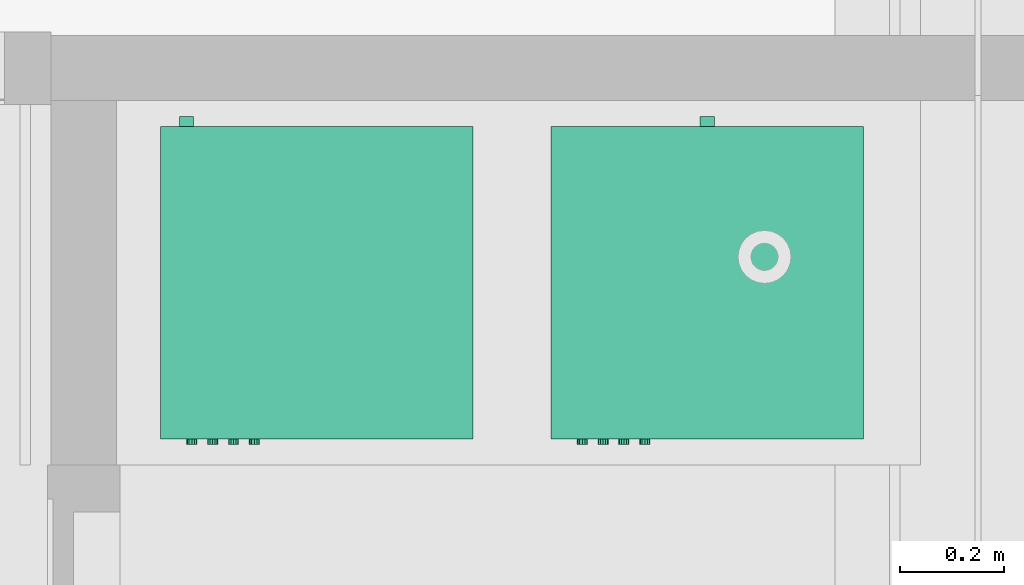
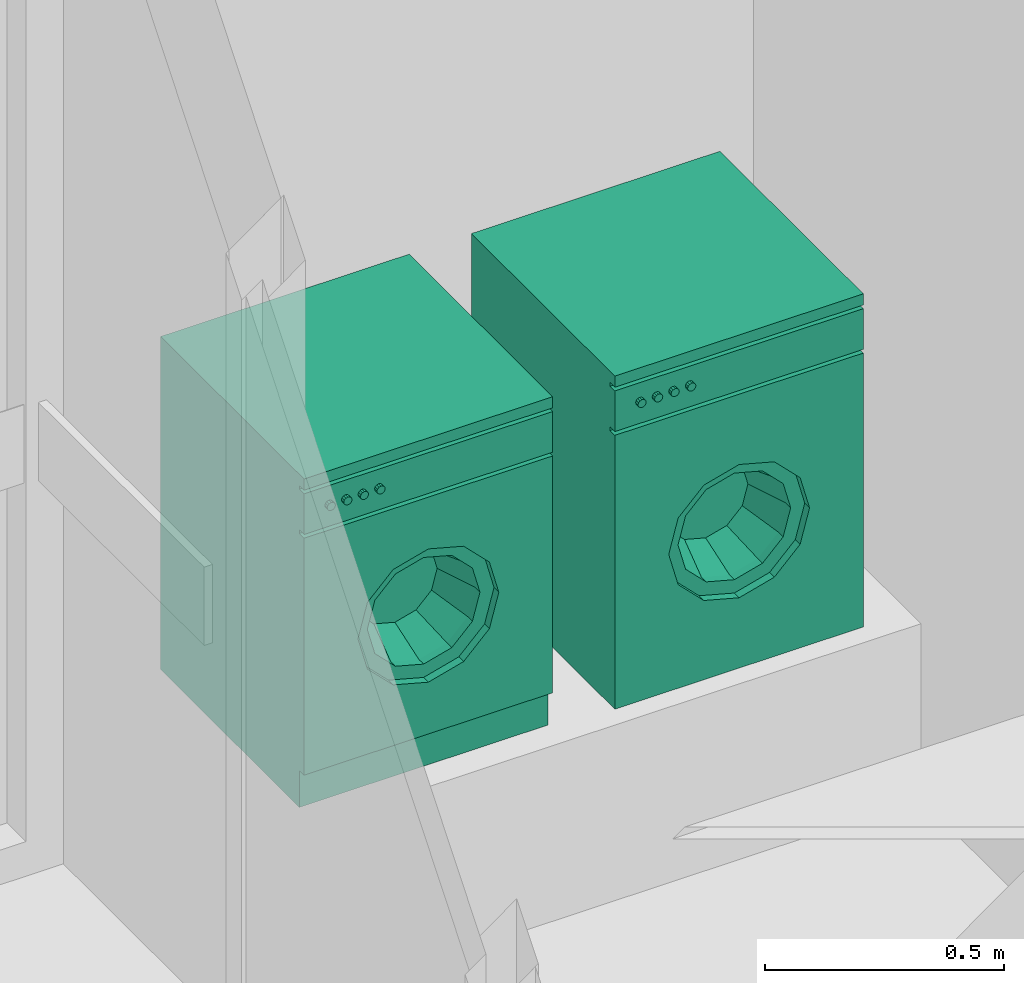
# One storey, part 303 of 347: 2 flow terminals.
"""IFC2X3 building model written with IfcOpenShell, lengths in millimetres."""

from ifc_helpers import new_model, entity, si_unit, converted_unit, derived_unit, money_unit, direction, frame, origin_with_axes, place, context, subcontext, project, spatial, open_shell, faceted_brep, surface_model, type_object, element, save


model = new_model("IFC2X3")

# Units and contexts
model_context = context("Model", 3, precision=0.01, world=origin_with_axes(), true_north=direction((0.0, 1.0)))
plan_context = context("Plan", 3, precision=0.01, world=origin_with_axes(), true_north=direction((0.0, 1.0)))
body_context = subcontext(model_context, "Body", "Model", "MODEL_VIEW")
ifc_project = project(units=[si_unit("LENGTHUNIT", "METRE", prefix="MILLI"), si_unit("AREAUNIT", "SQUARE_METRE"), si_unit("VOLUMEUNIT", "CUBIC_METRE"), converted_unit("PLANEANGLEUNIT", "DEGREE", entity("IfcPlaneAngleMeasure", 0.0174532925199), si_unit("PLANEANGLEUNIT", "RADIAN"), dimensions=[0, 0, 0, 0, 0, 0, 0]), money_unit("EUR"), converted_unit("TIMEUNIT", "Year", entity("IfcTimeMeasure", 31556926.0), si_unit("TIMEUNIT", "SECOND"), dimensions=[0, 0, 1, 0, 0, 0, 0]), si_unit("MASSUNIT", "GRAM", prefix="KILO"), si_unit("THERMODYNAMICTEMPERATUREUNIT", "DEGREE_CELSIUS"), si_unit("LUMINOUSINTENSITYUNIT", "LUMEN"), si_unit("ENERGYUNIT", "JOULE", prefix="MEGA"), derived_unit("THERMALCONDUCTANCEUNIT", [(si_unit("POWERUNIT", "WATT"), 1), (si_unit("LENGTHUNIT", "METRE"), -1), (si_unit("THERMODYNAMICTEMPERATUREUNIT", "KELVIN"), -1)]), derived_unit("SPECIFICHEATCAPACITYUNIT", [(si_unit("ENERGYUNIT", "JOULE"), 1), (si_unit("MASSUNIT", "GRAM", prefix="KILO"), -1), (si_unit("THERMODYNAMICTEMPERATUREUNIT", "KELVIN"), -1)]), derived_unit("MASSDENSITYUNIT", [(si_unit("MASSUNIT", "GRAM", prefix="KILO"), 1), (si_unit("VOLUMEUNIT", "CUBIC_METRE"), -1)])], contexts=[model_context, plan_context])

# Site, building, storey
site_placement = place(None, origin_with_axes())
site = spatial("IfcSite", under=ifc_project, at=site_placement, Name="Site", CompositionType="ELEMENT")
building_placement = place(site_placement, origin_with_axes())
building = spatial("IfcBuilding", under=site, at=building_placement, Name="Naam gebouw", CompositionType="ELEMENT")
storey_placement = place(building_placement, origin_with_axes())
storey = spatial("IfcBuildingStorey", under=building, at=storey_placement, Name="begane grond", CompositionType="ELEMENT", Elevation=0.0)

# Flow terminals
sanitary_terminal_type_1 = type_object("IfcSanitaryTerminalType", Name="Wasmachine 25", PredefinedType="SINK")
flow_terminal_1_placement = place(storey_placement, frame((34335.0, 16650.0, 450.0), z_axis=(0.0, 0.0, 1.0), x_axis=(1.0, 0.0, 0.0)))
element("IfcFlowTerminal", 1, at=flow_terminal_1_placement, inside=storey, type_object=sanitary_terminal_type_1, Name="53_kopieerapparaat", context=body_context, shape_type="SurfaceModel", body=[
    surface_model("IfcShellBasedSurfaceModel", [(-250.0, 0.0, 794.666666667), (-253.494057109, 0.0, 795.126668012), (-253.494057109, 20.0, 795.126668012), (-250.0, 20.0, 794.666666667), (-256.75, 0.0, 796.475323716), (-256.75, 20.0, 796.475323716), (-246.505942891, 0.0, 795.126668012), (-246.505942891, 20.0, 795.126668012), (-259.545941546, 0.0, 798.620725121), (-259.545941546, 20.0, 798.620725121), (-243.25, 0.0, 796.475323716), (-243.25, 20.0, 796.475323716), (-261.691342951, 0.0, 801.416666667), (-261.691342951, 20.0, 801.416666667), (-240.454058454, 0.0, 798.620725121), (-240.454058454, 20.0, 798.620725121), (-263.039998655, 0.0, 804.672609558), (-263.039998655, 20.0, 804.672609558), (-238.308657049, 0.0, 801.416666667), (-238.308657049, 20.0, 801.416666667), (-263.5, 0.0, 808.166666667), (-263.5, 20.0, 808.166666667), (-236.960001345, 0.0, 804.672609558), (-236.960001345, 20.0, 804.672609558), (-263.039998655, 0.0, 811.660723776), (-263.039998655, 20.0, 811.660723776), (-236.5, 0.0, 808.166666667), (-236.5, 20.0, 808.166666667), (-261.691342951, 0.0, 814.916666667), (-261.691342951, 20.0, 814.916666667), (-236.960001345, 0.0, 811.660723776), (-236.960001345, 20.0, 811.660723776), (-259.545941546, 0.0, 817.712608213), (-259.545941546, 20.0, 817.712608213), (-238.308657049, 0.0, 814.916666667), (-238.308657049, 20.0, 814.916666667), (-256.75, 0.0, 819.858009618), (-256.75, 20.0, 819.858009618), (-240.454058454, 0.0, 817.712608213), (-240.454058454, 20.0, 817.712608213), (-253.494057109, 0.0, 821.206665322), (-253.494057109, 20.0, 821.206665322), (-243.25, 0.0, 819.858009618), (-243.25, 20.0, 819.858009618), (-250.0, 0.0, 821.666666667), (-250.0, 20.0, 821.666666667), (-246.505942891, 0.0, 821.206665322), (-246.505942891, 20.0, 821.206665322)], [open_shell([[[0, 1, 2, 3]], [[1, 4, 5, 2]], [[6, 0, 3, 7]], [[4, 8, 9, 5]], [[10, 6, 7, 11]], [[8, 12, 13, 9]], [[14, 10, 11, 15]], [[12, 16, 17, 13]], [[18, 14, 15, 19]], [[16, 20, 21, 17]], [[22, 18, 19, 23]], [[20, 24, 25, 21]], [[26, 22, 23, 27]], [[24, 28, 29, 25]], [[30, 26, 27, 31]], [[28, 32, 33, 29]], [[34, 30, 31, 35]], [[32, 36, 37, 33]], [[38, 34, 35, 39]], [[36, 40, 41, 37]], [[42, 38, 39, 43]], [[40, 44, 45, 41]], [[46, 42, 43, 47]], [[44, 46, 47, 45]]])]),
    surface_model("IfcShellBasedSurfaceModel", [(-250.0, 0.0, 426.5), (-253.494057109, 0.0, 426.960001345), (-253.494057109, 20.0, 426.960001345), (-250.0, 20.0, 426.5), (-256.75, 0.0, 428.308657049), (-256.75, 20.0, 428.308657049), (-246.505942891, 0.0, 426.960001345), (-246.505942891, 20.0, 426.960001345), (-259.545941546, 0.0, 430.454058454), (-259.545941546, 20.0, 430.454058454), (-243.25, 0.0, 428.308657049), (-243.25, 20.0, 428.308657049), (-261.691342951, 0.0, 433.25), (-261.691342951, 20.0, 433.25), (-240.454058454, 0.0, 430.454058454), (-240.454058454, 20.0, 430.454058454), (-263.039998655, 0.0, 436.505942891), (-263.039998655, 20.0, 436.505942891), (-238.308657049, 0.0, 433.25), (-238.308657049, 20.0, 433.25), (-263.5, 0.0, 440.0), (-263.5, 20.0, 440.0), (-236.960001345, 0.0, 436.505942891), (-236.960001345, 20.0, 436.505942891), (-263.039998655, 0.0, 443.494057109), (-263.039998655, 20.0, 443.494057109), (-236.5, 0.0, 440.0), (-236.5, 20.0, 440.0), (-261.691342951, 0.0, 446.75), (-261.691342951, 20.0, 446.75), (-236.960001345, 0.0, 443.494057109), (-236.960001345, 20.0, 443.494057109), (-259.545941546, 0.0, 449.545941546), (-259.545941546, 20.0, 449.545941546), (-238.308657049, 0.0, 446.75), (-238.308657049, 20.0, 446.75), (-256.75, 0.0, 451.691342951), (-256.75, 20.0, 451.691342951), (-240.454058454, 0.0, 449.545941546), (-240.454058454, 20.0, 449.545941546), (-253.494057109, 0.0, 453.039998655), (-253.494057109, 20.0, 453.039998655), (-243.25, 0.0, 451.691342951), (-243.25, 20.0, 451.691342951), (-250.0, 0.0, 453.5), (-250.0, 20.0, 453.5), (-246.505942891, 0.0, 453.039998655), (-246.505942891, 20.0, 453.039998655)], [open_shell([[[0, 1, 2, 3]], [[1, 4, 5, 2]], [[6, 0, 3, 7]], [[4, 8, 9, 5]], [[10, 6, 7, 11]], [[8, 12, 13, 9]], [[14, 10, 11, 15]], [[12, 16, 17, 13]], [[18, 14, 15, 19]], [[16, 20, 21, 17]], [[22, 18, 19, 23]], [[20, 24, 25, 21]], [[26, 22, 23, 27]], [[24, 28, 29, 25]], [[30, 26, 27, 31]], [[28, 32, 33, 29]], [[34, 30, 31, 35]], [[32, 36, 37, 33]], [[38, 34, 35, 39]], [[36, 40, 41, 37]], [[42, 38, 39, 43]], [[40, 44, 45, 41]], [[46, 42, 43, 47]], [[44, 46, 47, 45]]])]),
    faceted_brep([(-300.0, -580.0, 94.4444444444), (300.0, -580.0, 94.4444444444), (300.0, -600.0, 94.4444444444), (-300.0, -600.0, 94.4444444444), (-300.0, -580.0, 698.888888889), (300.0, -580.0, 698.888888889), (170.0, -580.0, 396.666666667), (147.224318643, -580.0, 481.666666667), (85.0, -580.0, 543.89098531), (0.0, -580.0, 566.666666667), (-85.0, -580.0, 543.89098531), (-147.224318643, -580.0, 481.666666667), (-170.0, -580.0, 396.666666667), (-147.224318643, -580.0, 311.666666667), (-85.0, -580.0, 249.442348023), (0.0, -580.0, 226.666666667), (85.0, -580.0, 249.442348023), (147.224318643, -580.0, 311.666666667), (300.0, -600.0, 698.888888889), (-300.0, -600.0, 698.888888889), (170.0, -600.0, 396.666666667), (147.224318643, -600.0, 311.666666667), (85.0, -600.0, 249.442348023), (0.0, -600.0, 226.666666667), (-85.0, -600.0, 249.442348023), (-147.224318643, -600.0, 311.666666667), (-170.0, -600.0, 396.666666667), (-147.224318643, -600.0, 481.666666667), (-85.0, -600.0, 543.89098531), (0.0, -600.0, 566.666666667), (85.0, -600.0, 543.89098531), (147.224318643, -600.0, 481.666666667)], [[[0, 1, 2, 3]], [[0, 4, 5, 1], [6, 7, 8, 9, 10, 11, 12, 13, 14, 15, 16, 17]], [[1, 5, 18, 2]], [[3, 2, 18, 19], [20, 21, 22, 23, 24, 25, 26, 27, 28, 29, 30, 31]], [[4, 0, 3, 19]], [[5, 4, 19, 18]], [[7, 6, 20, 31]], [[8, 7, 31, 30]], [[9, 8, 30, 29]], [[10, 9, 29, 28]], [[11, 10, 28, 27]], [[12, 11, 27, 26]], [[13, 12, 26, 25]], [[14, 13, 25, 24]], [[15, 14, 24, 23]], [[16, 15, 23, 22]], [[17, 16, 22, 21]], [[6, 17, 21, 20]]]),
    faceted_brep([(170.0, -560.0, 396.666666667), (147.224318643, -560.0, 481.666666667), (147.224318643, -580.0, 481.666666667), (170.0, -580.0, 396.666666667), (147.224318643, -560.0, 311.666666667), (85.0, -560.0, 249.442348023), (0.0, -560.0, 226.666666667), (-85.0, -560.0, 249.442348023), (-147.224318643, -560.0, 311.666666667), (-170.0, -560.0, 396.666666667), (-147.224318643, -560.0, 481.666666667), (-85.0, -560.0, 543.89098531), (0.0, -560.0, 566.666666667), (85.0, -560.0, 543.89098531), (136.0, -560.0, 396.666666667), (117.779454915, -560.0, 464.666666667), (68.0, -560.0, 514.446121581), (0.0, -560.0, 532.666666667), (-68.0, -560.0, 514.446121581), (-117.779454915, -560.0, 464.666666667), (-136.0, -560.0, 396.666666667), (-117.779454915, -560.0, 328.666666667), (-68.0, -560.0, 278.887211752), (0.0, -560.0, 260.666666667), (68.0, -560.0, 278.887211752), (117.779454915, -560.0, 328.666666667), (85.0, -580.0, 543.89098531), (0.0, -580.0, 566.666666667), (-85.0, -580.0, 543.89098531), (-147.224318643, -580.0, 481.666666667), (-170.0, -580.0, 396.666666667), (-147.224318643, -580.0, 311.666666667), (-85.0, -580.0, 249.442348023), (0.0, -580.0, 226.666666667), (85.0, -580.0, 249.442348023), (147.224318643, -580.0, 311.666666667), (136.0, -580.0, 396.666666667), (117.779454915, -580.0, 328.666666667), (68.0, -580.0, 278.887211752), (0.0, -580.0, 260.666666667), (-68.0, -580.0, 278.887211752), (-117.779454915, -580.0, 328.666666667), (-136.0, -580.0, 396.666666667), (-117.779454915, -580.0, 464.666666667), (-68.0, -580.0, 514.446121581), (0.0, -580.0, 532.666666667), (68.0, -580.0, 514.446121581), (117.779454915, -580.0, 464.666666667)], [[[0, 1, 2, 3]], [[0, 4, 5, 6, 7, 8, 9, 10, 11, 12, 13, 1], [14, 15, 16, 17, 18, 19, 20, 21, 22, 23, 24, 25]], [[1, 13, 26, 2]], [[3, 2, 26, 27, 28, 29, 30, 31, 32, 33, 34, 35], [36, 37, 38, 39, 40, 41, 42, 43, 44, 45, 46, 47]], [[4, 0, 3, 35]], [[5, 4, 35, 34]], [[6, 5, 34, 33]], [[7, 6, 33, 32]], [[8, 7, 32, 31]], [[9, 8, 31, 30]], [[10, 9, 30, 29]], [[11, 10, 29, 28]], [[12, 11, 28, 27]], [[13, 12, 27, 26]], [[15, 14, 36, 47]], [[16, 15, 47, 46]], [[17, 16, 46, 45]], [[18, 17, 45, 44]], [[19, 18, 44, 43]], [[20, 19, 43, 42]], [[21, 20, 42, 41]], [[22, 21, 41, 40]], [[23, 22, 40, 39]], [[24, 23, 39, 38]], [[25, 24, 38, 37]], [[14, 25, 37, 36]]]),
    surface_model("IfcShellBasedSurfaceModel", [(-68.0, -560.0, 514.446121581), (0.0, -560.0, 532.666666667), (0.0, -460.0, 498.666666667), (-51.0, -460.0, 485.001257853), (68.0, -560.0, 514.446121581), (51.0, -460.0, 485.001257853), (88.334591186, -460.0, 447.666666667), (102.0, -460.0, 396.666666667), (88.334591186, -460.0, 345.666666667), (51.0, -460.0, 308.332075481), (0.0, -460.0, 294.666666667), (-51.0, -460.0, 308.332075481), (-88.334591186, -460.0, 345.666666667), (-102.0, -460.0, 396.666666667), (-88.334591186, -460.0, 447.666666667), (-117.779454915, -560.0, 464.666666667), (117.779454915, -560.0, 464.666666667), (136.0, -560.0, 396.666666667), (117.779454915, -560.0, 328.666666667), (68.0, -560.0, 278.887211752), (0.0, -560.0, 260.666666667), (-68.0, -560.0, 278.887211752), (-117.779454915, -560.0, 328.666666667), (-136.0, -560.0, 396.666666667)], [open_shell([[[0, 1, 2, 3]], [[1, 4, 5, 2]], [[2, 5, 6, 7, 8, 9, 10, 11, 12, 13, 14, 3]], [[15, 0, 3, 14]], [[4, 16, 6, 5]], [[16, 17, 7, 6]], [[17, 18, 8, 7]], [[18, 19, 9, 8]], [[19, 20, 10, 9]], [[20, 21, 11, 10]], [[21, 22, 12, 11]], [[22, 23, 13, 12]], [[23, 15, 14, 13]]])]),
    surface_model("IfcShellBasedSurfaceModel", [(-300.0, -580.0, 94.4444444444), (-300.0, -580.0, 821.666666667), (-300.0, 0.0, 821.666666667), (-300.0, 0.0, 94.4444444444)], [open_shell([[[0, 1, 2, 3]]])]),
    surface_model("IfcShellBasedSurfaceModel", [(300.0, -580.0, 94.4444444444), (300.0, -580.0, 821.666666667), (300.0, 0.0, 821.666666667), (300.0, 0.0, 94.4444444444)], [open_shell([[[0, 1, 2, 3]]])]),
    surface_model("IfcShellBasedSurfaceModel", [(-300.0, 0.0, 94.4444444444), (-300.0, 0.0, 821.666666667), (300.0, 0.0, 821.666666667), (300.0, 0.0, 94.4444444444)], [open_shell([[[0, 1, 2, 3]]])]),
    faceted_brep([(-300.0, -580.0, 0.0), (300.0, -580.0, 0.0), (300.0, -580.0, 94.4444444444), (-300.0, -580.0, 94.4444444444), (-300.0, 0.0, 0.0), (300.0, 0.0, 0.0), (300.0, 0.0, 94.4444444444), (-300.0, 0.0, 94.4444444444)], [[[0, 1, 2, 3]], [[0, 4, 5, 1]], [[1, 5, 6, 2]], [[3, 2, 6, 7]], [[4, 0, 3, 7]], [[5, 4, 7, 6]]]),
    faceted_brep([(-300.0, -580.0, 708.333333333), (300.0, -580.0, 708.333333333), (300.0, -600.0, 708.333333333), (-300.0, -600.0, 708.333333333), (-300.0, -580.0, 812.222222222), (300.0, -580.0, 812.222222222), (300.0, -600.0, 812.222222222), (-300.0, -600.0, 812.222222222)], [[[0, 1, 2, 3]], [[0, 4, 5, 1]], [[1, 5, 6, 2]], [[3, 2, 6, 7]], [[4, 0, 3, 7]], [[5, 4, 7, 6]]]),
    surface_model("IfcShellBasedSurfaceModel", [(-300.0, -580.0, 698.888888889), (-300.0, -580.0, 821.666666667), (300.0, -580.0, 821.666666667), (300.0, -580.0, 698.888888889)], [open_shell([[[0, 1, 2, 3]]])]),
    faceted_brep([(-300.0, -600.0, 821.666666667), (300.0, -600.0, 821.666666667), (300.0, -600.0, 850.0), (-300.0, -600.0, 850.0), (-300.0, 0.0, 821.666666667), (300.0, 0.0, 821.666666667), (300.0, 0.0, 850.0), (-300.0, 0.0, 850.0)], [[[0, 1, 2, 3]], [[0, 4, 5, 1]], [[1, 5, 6, 2]], [[3, 2, 6, 7]], [[4, 0, 3, 7]], [[5, 4, 7, 6]]]),
    faceted_brep([(-231.339745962, -600.0, 760.0), (-235.0, -600.0, 756.339745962), (-240.0, -600.0, 755.0), (-245.0, -600.0, 756.339745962), (-248.660254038, -600.0, 760.0), (-250.0, -600.0, 765.0), (-248.660254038, -600.0, 770.0), (-245.0, -600.0, 773.660254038), (-240.0, -600.0, 775.0), (-235.0, -600.0, 773.660254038), (-231.339745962, -600.0, 770.0), (-230.0, -600.0, 765.0), (-231.339745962, -610.0, 760.0), (-235.0, -610.0, 756.339745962), (-240.0, -610.0, 755.0), (-245.0, -610.0, 756.339745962), (-248.660254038, -610.0, 760.0), (-250.0, -610.0, 765.0), (-248.660254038, -610.0, 770.0), (-245.0, -610.0, 773.660254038), (-240.0, -610.0, 775.0), (-235.0, -610.0, 773.660254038), (-231.339745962, -610.0, 770.0), (-230.0, -610.0, 765.0)], [[[0, 1, 2, 3, 4, 5, 6, 7, 8, 9, 10, 11]], [[1, 0, 12, 13]], [[2, 1, 13, 14]], [[3, 2, 14, 15]], [[4, 3, 15, 16]], [[5, 4, 16, 17]], [[6, 5, 17, 18]], [[7, 6, 18, 19]], [[8, 7, 19, 20]], [[9, 8, 20, 21]], [[10, 9, 21, 22]], [[11, 10, 22, 23]], [[0, 11, 23, 12]], [[12, 23, 22, 21, 20, 19, 18, 17, 16, 15, 14, 13]]]),
    faceted_brep([(-191.339745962, -600.0, 760.0), (-195.0, -600.0, 756.339745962), (-200.0, -600.0, 755.0), (-205.0, -600.0, 756.339745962), (-208.660254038, -600.0, 760.0), (-210.0, -600.0, 765.0), (-208.660254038, -600.0, 770.0), (-205.0, -600.0, 773.660254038), (-200.0, -600.0, 775.0), (-195.0, -600.0, 773.660254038), (-191.339745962, -600.0, 770.0), (-190.0, -600.0, 765.0), (-191.339745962, -610.0, 760.0), (-195.0, -610.0, 756.339745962), (-200.0, -610.0, 755.0), (-205.0, -610.0, 756.339745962), (-208.660254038, -610.0, 760.0), (-210.0, -610.0, 765.0), (-208.660254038, -610.0, 770.0), (-205.0, -610.0, 773.660254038), (-200.0, -610.0, 775.0), (-195.0, -610.0, 773.660254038), (-191.339745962, -610.0, 770.0), (-190.0, -610.0, 765.0)], [[[0, 1, 2, 3, 4, 5, 6, 7, 8, 9, 10, 11]], [[1, 0, 12, 13]], [[2, 1, 13, 14]], [[3, 2, 14, 15]], [[4, 3, 15, 16]], [[5, 4, 16, 17]], [[6, 5, 17, 18]], [[7, 6, 18, 19]], [[8, 7, 19, 20]], [[9, 8, 20, 21]], [[10, 9, 21, 22]], [[11, 10, 22, 23]], [[0, 11, 23, 12]], [[12, 23, 22, 21, 20, 19, 18, 17, 16, 15, 14, 13]]]),
    faceted_brep([(-151.339745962, -600.0, 760.0), (-155.0, -600.0, 756.339745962), (-160.0, -600.0, 755.0), (-165.0, -600.0, 756.339745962), (-168.660254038, -600.0, 760.0), (-170.0, -600.0, 765.0), (-168.660254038, -600.0, 770.0), (-165.0, -600.0, 773.660254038), (-160.0, -600.0, 775.0), (-155.0, -600.0, 773.660254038), (-151.339745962, -600.0, 770.0), (-150.0, -600.0, 765.0), (-151.339745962, -610.0, 760.0), (-155.0, -610.0, 756.339745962), (-160.0, -610.0, 755.0), (-165.0, -610.0, 756.339745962), (-168.660254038, -610.0, 760.0), (-170.0, -610.0, 765.0), (-168.660254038, -610.0, 770.0), (-165.0, -610.0, 773.660254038), (-160.0, -610.0, 775.0), (-155.0, -610.0, 773.660254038), (-151.339745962, -610.0, 770.0), (-150.0, -610.0, 765.0)], [[[0, 1, 2, 3, 4, 5, 6, 7, 8, 9, 10, 11]], [[1, 0, 12, 13]], [[2, 1, 13, 14]], [[3, 2, 14, 15]], [[4, 3, 15, 16]], [[5, 4, 16, 17]], [[6, 5, 17, 18]], [[7, 6, 18, 19]], [[8, 7, 19, 20]], [[9, 8, 20, 21]], [[10, 9, 21, 22]], [[11, 10, 22, 23]], [[0, 11, 23, 12]], [[12, 23, 22, 21, 20, 19, 18, 17, 16, 15, 14, 13]]]),
    faceted_brep([(-111.339745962, -600.0, 760.0), (-115.0, -600.0, 756.339745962), (-120.0, -600.0, 755.0), (-125.0, -600.0, 756.339745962), (-128.660254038, -600.0, 760.0), (-130.0, -600.0, 765.0), (-128.660254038, -600.0, 770.0), (-125.0, -600.0, 773.660254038), (-120.0, -600.0, 775.0), (-115.0, -600.0, 773.660254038), (-111.339745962, -600.0, 770.0), (-110.0, -600.0, 765.0), (-111.339745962, -610.0, 760.0), (-115.0, -610.0, 756.339745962), (-120.0, -610.0, 755.0), (-125.0, -610.0, 756.339745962), (-128.660254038, -610.0, 760.0), (-130.0, -610.0, 765.0), (-128.660254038, -610.0, 770.0), (-125.0, -610.0, 773.660254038), (-120.0, -610.0, 775.0), (-115.0, -610.0, 773.660254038), (-111.339745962, -610.0, 770.0), (-110.0, -610.0, 765.0)], [[[0, 1, 2, 3, 4, 5, 6, 7, 8, 9, 10, 11]], [[1, 0, 12, 13]], [[2, 1, 13, 14]], [[3, 2, 14, 15]], [[4, 3, 15, 16]], [[5, 4, 16, 17]], [[6, 5, 17, 18]], [[7, 6, 18, 19]], [[8, 7, 19, 20]], [[9, 8, 20, 21]], [[10, 9, 21, 22]], [[11, 10, 22, 23]], [[0, 11, 23, 12]], [[12, 23, 22, 21, 20, 19, 18, 17, 16, 15, 14, 13]]]),
])
sanitary_terminal_type_2 = type_object("IfcSanitaryTerminalType", Name="Droger 25", PredefinedType="SINK")
flow_terminal_2_placement = place(storey_placement, frame((34785.0, 16050.0, 450.0), z_axis=(0.0, 0.0, 1.0), x_axis=(1.0, 0.0, 0.0)))
element("IfcFlowTerminal", 2, at=flow_terminal_2_placement, inside=storey, type_object=sanitary_terminal_type_2, Name="53_kopieerapparaat", context=body_context, shape_type="SurfaceModel", body=[
    surface_model("IfcShellBasedSurfaceModel", [(300.0, 600.0, 593.0), (296.505942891, 600.0, 593.460001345), (296.505942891, 620.0, 593.460001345), (300.0, 620.0, 593.0), (293.25, 600.0, 594.808657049), (293.25, 620.0, 594.808657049), (303.494057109, 600.0, 593.460001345), (303.494057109, 620.0, 593.460001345), (290.454058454, 600.0, 596.954058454), (290.454058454, 620.0, 596.954058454), (306.75, 600.0, 594.808657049), (306.75, 620.0, 594.808657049), (288.308657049, 600.0, 599.75), (288.308657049, 620.0, 599.75), (309.545941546, 600.0, 596.954058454), (309.545941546, 620.0, 596.954058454), (286.960001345, 600.0, 603.005942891), (286.960001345, 620.0, 603.005942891), (311.691342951, 600.0, 599.75), (311.691342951, 620.0, 599.75), (286.5, 600.0, 606.5), (286.5, 620.0, 606.5), (313.039998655, 600.0, 603.005942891), (313.039998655, 620.0, 603.005942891), (286.960001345, 600.0, 609.994057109), (286.960001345, 620.0, 609.994057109), (313.5, 600.0, 606.5), (313.5, 620.0, 606.5), (288.308657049, 600.0, 613.25), (288.308657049, 620.0, 613.25), (313.039998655, 600.0, 609.994057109), (313.039998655, 620.0, 609.994057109), (290.454058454, 600.0, 616.045941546), (290.454058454, 620.0, 616.045941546), (311.691342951, 600.0, 613.25), (311.691342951, 620.0, 613.25), (293.25, 600.0, 618.191342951), (293.25, 620.0, 618.191342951), (309.545941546, 600.0, 616.045941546), (309.545941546, 620.0, 616.045941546), (296.505942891, 600.0, 619.539998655), (296.505942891, 620.0, 619.539998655), (306.75, 600.0, 618.191342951), (306.75, 620.0, 618.191342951), (300.0, 600.0, 620.0), (300.0, 620.0, 620.0), (303.494057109, 600.0, 619.539998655), (303.494057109, 620.0, 619.539998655)], [open_shell([[[0, 1, 2, 3]], [[1, 4, 5, 2]], [[6, 0, 3, 7]], [[4, 8, 9, 5]], [[10, 6, 7, 11]], [[8, 12, 13, 9]], [[14, 10, 11, 15]], [[12, 16, 17, 13]], [[18, 14, 15, 19]], [[16, 20, 21, 17]], [[22, 18, 19, 23]], [[20, 24, 25, 21]], [[26, 22, 23, 27]], [[24, 28, 29, 25]], [[30, 26, 27, 31]], [[28, 32, 33, 29]], [[34, 30, 31, 35]], [[32, 36, 37, 33]], [[38, 34, 35, 39]], [[36, 40, 41, 37]], [[42, 38, 39, 43]], [[40, 44, 45, 41]], [[46, 42, 43, 47]], [[44, 46, 47, 45]]])]),
    faceted_brep([(0.0, 20.0, 0.0), (600.0, 20.0, 0.0), (600.0, 0.0, 0.0), (0.0, 0.0, 0.0), (0.0, 20.0, 698.888888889), (600.0, 20.0, 698.888888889), (470.0, 20.0, 349.444444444), (447.224318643, 20.0, 434.444444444), (385.0, 20.0, 496.668763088), (300.0, 20.0, 519.444444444), (215.0, 20.0, 496.668763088), (152.775681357, 20.0, 434.444444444), (130.0, 20.0, 349.444444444), (152.775681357, 20.0, 264.444444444), (215.0, 20.0, 202.220125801), (300.0, 20.0, 179.444444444), (385.0, 20.0, 202.220125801), (447.224318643, 20.0, 264.444444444), (600.0, 0.0, 698.888888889), (0.0, 0.0, 698.888888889), (470.0, 0.0, 349.444444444), (447.224318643, 0.0, 264.444444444), (385.0, 0.0, 202.220125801), (300.0, 0.0, 179.444444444), (215.0, 0.0, 202.220125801), (152.775681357, 0.0, 264.444444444), (130.0, 0.0, 349.444444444), (152.775681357, 0.0, 434.444444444), (215.0, 0.0, 496.668763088), (300.0, 0.0, 519.444444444), (385.0, 0.0, 496.668763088), (447.224318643, 0.0, 434.444444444)], [[[0, 1, 2, 3]], [[0, 4, 5, 1], [6, 7, 8, 9, 10, 11, 12, 13, 14, 15, 16, 17]], [[1, 5, 18, 2]], [[3, 2, 18, 19], [20, 21, 22, 23, 24, 25, 26, 27, 28, 29, 30, 31]], [[4, 0, 3, 19]], [[5, 4, 19, 18]], [[7, 6, 20, 31]], [[8, 7, 31, 30]], [[9, 8, 30, 29]], [[10, 9, 29, 28]], [[11, 10, 28, 27]], [[12, 11, 27, 26]], [[13, 12, 26, 25]], [[14, 13, 25, 24]], [[15, 14, 24, 23]], [[16, 15, 23, 22]], [[17, 16, 22, 21]], [[6, 17, 21, 20]]]),
    faceted_brep([(470.0, 40.0, 349.444444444), (447.224318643, 40.0, 434.444444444), (447.224318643, 20.0, 434.444444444), (470.0, 20.0, 349.444444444), (447.224318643, 40.0, 264.444444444), (385.0, 40.0, 202.220125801), (300.0, 40.0, 179.444444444), (215.0, 40.0, 202.220125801), (152.775681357, 40.0, 264.444444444), (130.0, 40.0, 349.444444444), (152.775681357, 40.0, 434.444444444), (215.0, 40.0, 496.668763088), (300.0, 40.0, 519.444444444), (385.0, 40.0, 496.668763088), (436.0, 40.0, 349.444444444), (417.779454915, 40.0, 417.444444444), (368.0, 40.0, 467.223899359), (300.0, 40.0, 485.444444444), (232.0, 40.0, 467.223899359), (182.220545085, 40.0, 417.444444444), (164.0, 40.0, 349.444444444), (182.220545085, 40.0, 281.444444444), (232.0, 40.0, 231.66498953), (300.0, 40.0, 213.444444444), (368.0, 40.0, 231.66498953), (417.779454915, 40.0, 281.444444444), (385.0, 20.0, 496.668763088), (300.0, 20.0, 519.444444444), (215.0, 20.0, 496.668763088), (152.775681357, 20.0, 434.444444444), (130.0, 20.0, 349.444444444), (152.775681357, 20.0, 264.444444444), (215.0, 20.0, 202.220125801), (300.0, 20.0, 179.444444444), (385.0, 20.0, 202.220125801), (447.224318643, 20.0, 264.444444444), (436.0, 20.0, 349.444444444), (417.779454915, 20.0, 281.444444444), (368.0, 20.0, 231.66498953), (300.0, 20.0, 213.444444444), (232.0, 20.0, 231.66498953), (182.220545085, 20.0, 281.444444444), (164.0, 20.0, 349.444444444), (182.220545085, 20.0, 417.444444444), (232.0, 20.0, 467.223899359), (300.0, 20.0, 485.444444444), (368.0, 20.0, 467.223899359), (417.779454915, 20.0, 417.444444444)], [[[0, 1, 2, 3]], [[0, 4, 5, 6, 7, 8, 9, 10, 11, 12, 13, 1], [14, 15, 16, 17, 18, 19, 20, 21, 22, 23, 24, 25]], [[1, 13, 26, 2]], [[3, 2, 26, 27, 28, 29, 30, 31, 32, 33, 34, 35], [36, 37, 38, 39, 40, 41, 42, 43, 44, 45, 46, 47]], [[4, 0, 3, 35]], [[5, 4, 35, 34]], [[6, 5, 34, 33]], [[7, 6, 33, 32]], [[8, 7, 32, 31]], [[9, 8, 31, 30]], [[10, 9, 30, 29]], [[11, 10, 29, 28]], [[12, 11, 28, 27]], [[13, 12, 27, 26]], [[15, 14, 36, 47]], [[16, 15, 47, 46]], [[17, 16, 46, 45]], [[18, 17, 45, 44]], [[19, 18, 44, 43]], [[20, 19, 43, 42]], [[21, 20, 42, 41]], [[22, 21, 41, 40]], [[23, 22, 40, 39]], [[24, 23, 39, 38]], [[25, 24, 38, 37]], [[14, 25, 37, 36]]]),
    surface_model("IfcShellBasedSurfaceModel", [(232.0, 40.0, 467.223899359), (300.0, 40.0, 485.444444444), (300.0, 140.0, 451.444444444), (249.0, 140.0, 437.77903563), (368.0, 40.0, 467.223899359), (351.0, 140.0, 437.77903563), (388.334591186, 140.0, 400.444444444), (402.0, 140.0, 349.444444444), (388.334591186, 140.0, 298.444444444), (351.0, 140.0, 261.109853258), (300.0, 140.0, 247.444444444), (249.0, 140.0, 261.109853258), (211.665408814, 140.0, 298.444444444), (198.0, 140.0, 349.444444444), (211.665408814, 140.0, 400.444444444), (182.220545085, 40.0, 417.444444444), (417.779454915, 40.0, 417.444444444), (436.0, 40.0, 349.444444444), (417.779454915, 40.0, 281.444444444), (368.0, 40.0, 231.66498953), (300.0, 40.0, 213.444444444), (232.0, 40.0, 231.66498953), (182.220545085, 40.0, 281.444444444), (164.0, 40.0, 349.444444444)], [open_shell([[[0, 1, 2, 3]], [[1, 4, 5, 2]], [[2, 5, 6, 7, 8, 9, 10, 11, 12, 13, 14, 3]], [[15, 0, 3, 14]], [[4, 16, 6, 5]], [[16, 17, 7, 6]], [[17, 18, 8, 7]], [[18, 19, 9, 8]], [[19, 20, 10, 9]], [[20, 21, 11, 10]], [[21, 22, 12, 11]], [[22, 23, 13, 12]], [[23, 15, 14, 13]]])]),
    surface_model("IfcShellBasedSurfaceModel", [(0.0, 20.0, 0.0), (0.0, 20.0, 821.666666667), (0.0, 600.0, 821.666666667), (0.0, 600.0, 0.0)], [open_shell([[[0, 1, 2, 3]]])]),
    surface_model("IfcShellBasedSurfaceModel", [(600.0, 20.0, 0.0), (600.0, 20.0, 821.666666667), (600.0, 600.0, 821.666666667), (600.0, 600.0, 0.0)], [open_shell([[[0, 1, 2, 3]]])]),
    surface_model("IfcShellBasedSurfaceModel", [(0.0, 600.0, 0.0), (0.0, 600.0, 821.666666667), (600.0, 600.0, 821.666666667), (600.0, 600.0, 0.0)], [open_shell([[[0, 1, 2, 3]]])]),
    surface_model("IfcShellBasedSurfaceModel", [(0.0, 600.0, 0.0), (0.0, 20.0, 0.0), (600.0, 20.0, 0.0), (600.0, 600.0, 0.0)], [open_shell([[[0, 1, 2, 3]]])]),
    faceted_brep([(0.0, 20.0, 708.333333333), (600.0, 20.0, 708.333333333), (600.0, 0.0, 708.333333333), (0.0, 0.0, 708.333333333), (0.0, 20.0, 812.222222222), (600.0, 20.0, 812.222222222), (600.0, 0.0, 812.222222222), (0.0, 0.0, 812.222222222)], [[[0, 1, 2, 3]], [[0, 4, 5, 1]], [[1, 5, 6, 2]], [[3, 2, 6, 7]], [[4, 0, 3, 7]], [[5, 4, 7, 6]]]),
    surface_model("IfcShellBasedSurfaceModel", [(0.0, 20.0, 698.888888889), (0.0, 20.0, 821.666666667), (600.0, 20.0, 821.666666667), (600.0, 20.0, 698.888888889)], [open_shell([[[0, 1, 2, 3]]])]),
    faceted_brep([(0.0, 0.0, 821.666666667), (600.0, 0.0, 821.666666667), (600.0, 0.0, 850.0), (0.0, 0.0, 850.0), (0.0, 600.0, 821.666666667), (600.0, 600.0, 821.666666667), (600.0, 600.0, 850.0), (0.0, 600.0, 850.0)], [[[0, 1, 2, 3]], [[0, 4, 5, 1]], [[1, 5, 6, 2]], [[3, 2, 6, 7]], [[4, 0, 3, 7]], [[5, 4, 7, 6]]]),
    faceted_brep([(68.6602540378, 0.0, 760.0), (65.0, 0.0, 756.339745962), (60.0, 0.0, 755.0), (55.0, 0.0, 756.339745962), (51.3397459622, 0.0, 760.0), (50.0, 0.0, 765.0), (51.3397459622, 0.0, 770.0), (55.0, 0.0, 773.660254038), (60.0, 0.0, 775.0), (65.0, 0.0, 773.660254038), (68.6602540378, 0.0, 770.0), (70.0, 0.0, 765.0), (68.6602540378, -10.0, 760.0), (65.0, -10.0, 756.339745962), (60.0, -10.0, 755.0), (55.0, -10.0, 756.339745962), (51.3397459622, -10.0, 760.0), (50.0, -10.0, 765.0), (51.3397459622, -10.0, 770.0), (55.0, -10.0, 773.660254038), (60.0, -10.0, 775.0), (65.0, -10.0, 773.660254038), (68.6602540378, -10.0, 770.0), (70.0, -10.0, 765.0)], [[[0, 1, 2, 3, 4, 5, 6, 7, 8, 9, 10, 11]], [[1, 0, 12, 13]], [[2, 1, 13, 14]], [[3, 2, 14, 15]], [[4, 3, 15, 16]], [[5, 4, 16, 17]], [[6, 5, 17, 18]], [[7, 6, 18, 19]], [[8, 7, 19, 20]], [[9, 8, 20, 21]], [[10, 9, 21, 22]], [[11, 10, 22, 23]], [[0, 11, 23, 12]], [[12, 23, 22, 21, 20, 19, 18, 17, 16, 15, 14, 13]]]),
    faceted_brep([(108.660254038, 0.0, 760.0), (105.0, 0.0, 756.339745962), (100.0, 0.0, 755.0), (95.0, 0.0, 756.339745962), (91.3397459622, 0.0, 760.0), (90.0, 0.0, 765.0), (91.3397459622, 0.0, 770.0), (95.0, 0.0, 773.660254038), (100.0, 0.0, 775.0), (105.0, 0.0, 773.660254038), (108.660254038, 0.0, 770.0), (110.0, 0.0, 765.0), (108.660254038, -10.0, 760.0), (105.0, -10.0, 756.339745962), (100.0, -10.0, 755.0), (95.0, -10.0, 756.339745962), (91.3397459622, -10.0, 760.0), (90.0, -10.0, 765.0), (91.3397459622, -10.0, 770.0), (95.0, -10.0, 773.660254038), (100.0, -10.0, 775.0), (105.0, -10.0, 773.660254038), (108.660254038, -10.0, 770.0), (110.0, -10.0, 765.0)], [[[0, 1, 2, 3, 4, 5, 6, 7, 8, 9, 10, 11]], [[1, 0, 12, 13]], [[2, 1, 13, 14]], [[3, 2, 14, 15]], [[4, 3, 15, 16]], [[5, 4, 16, 17]], [[6, 5, 17, 18]], [[7, 6, 18, 19]], [[8, 7, 19, 20]], [[9, 8, 20, 21]], [[10, 9, 21, 22]], [[11, 10, 22, 23]], [[0, 11, 23, 12]], [[12, 23, 22, 21, 20, 19, 18, 17, 16, 15, 14, 13]]]),
    faceted_brep([(148.660254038, 0.0, 760.0), (145.0, 0.0, 756.339745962), (140.0, 0.0, 755.0), (135.0, 0.0, 756.339745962), (131.339745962, 0.0, 760.0), (130.0, 0.0, 765.0), (131.339745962, 0.0, 770.0), (135.0, 0.0, 773.660254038), (140.0, 0.0, 775.0), (145.0, 0.0, 773.660254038), (148.660254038, 0.0, 770.0), (150.0, 0.0, 765.0), (148.660254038, -10.0, 760.0), (145.0, -10.0, 756.339745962), (140.0, -10.0, 755.0), (135.0, -10.0, 756.339745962), (131.339745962, -10.0, 760.0), (130.0, -10.0, 765.0), (131.339745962, -10.0, 770.0), (135.0, -10.0, 773.660254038), (140.0, -10.0, 775.0), (145.0, -10.0, 773.660254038), (148.660254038, -10.0, 770.0), (150.0, -10.0, 765.0)], [[[0, 1, 2, 3, 4, 5, 6, 7, 8, 9, 10, 11]], [[1, 0, 12, 13]], [[2, 1, 13, 14]], [[3, 2, 14, 15]], [[4, 3, 15, 16]], [[5, 4, 16, 17]], [[6, 5, 17, 18]], [[7, 6, 18, 19]], [[8, 7, 19, 20]], [[9, 8, 20, 21]], [[10, 9, 21, 22]], [[11, 10, 22, 23]], [[0, 11, 23, 12]], [[12, 23, 22, 21, 20, 19, 18, 17, 16, 15, 14, 13]]]),
    faceted_brep([(188.660254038, 0.0, 760.0), (185.0, 0.0, 756.339745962), (180.0, 0.0, 755.0), (175.0, 0.0, 756.339745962), (171.339745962, 0.0, 760.0), (170.0, 0.0, 765.0), (171.339745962, 0.0, 770.0), (175.0, 0.0, 773.660254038), (180.0, 0.0, 775.0), (185.0, 0.0, 773.660254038), (188.660254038, 0.0, 770.0), (190.0, 0.0, 765.0), (188.660254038, -10.0, 760.0), (185.0, -10.0, 756.339745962), (180.0, -10.0, 755.0), (175.0, -10.0, 756.339745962), (171.339745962, -10.0, 760.0), (170.0, -10.0, 765.0), (171.339745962, -10.0, 770.0), (175.0, -10.0, 773.660254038), (180.0, -10.0, 775.0), (185.0, -10.0, 773.660254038), (188.660254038, -10.0, 770.0), (190.0, -10.0, 765.0)], [[[0, 1, 2, 3, 4, 5, 6, 7, 8, 9, 10, 11]], [[1, 0, 12, 13]], [[2, 1, 13, 14]], [[3, 2, 14, 15]], [[4, 3, 15, 16]], [[5, 4, 16, 17]], [[6, 5, 17, 18]], [[7, 6, 18, 19]], [[8, 7, 19, 20]], [[9, 8, 20, 21]], [[10, 9, 21, 22]], [[11, 10, 22, 23]], [[0, 11, 23, 12]], [[12, 23, 22, 21, 20, 19, 18, 17, 16, 15, 14, 13]]]),
])

save(model, "model.ifc")
